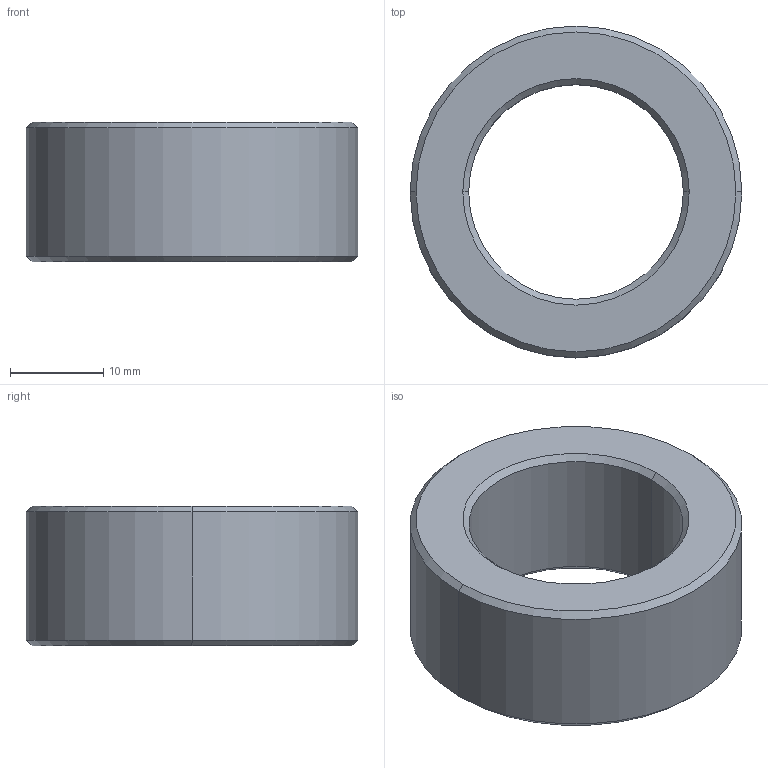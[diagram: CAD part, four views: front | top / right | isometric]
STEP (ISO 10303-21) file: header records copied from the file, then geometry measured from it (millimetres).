
FILE_DESCRIPTION (( 'STEP AP214' ), '1' );
FILE_NAME ('2675805302.STEP', '2025-02-18T19:11:20', ( '' ), ( '' ), 'SwSTEP 2.0', 'SolidWorks 2025', '' );
FILE_SCHEMA (( 'AUTOMOTIVE_DESIGN' ));
Length unit declared in the file: millimetre
Products named in the file (1): 2675805302
Bounding box: 35.55 x 35.55 x 15 mm (x, y, z)
Volume: 8582.5 mm3; surface area: 3776.5 mm2
Topology: 1 solids, 1 shells, 14 faces, 28 edges, 16 vertices
Faces by surface type: cone 8, cylinder 4, plane 2
Entity records: 391 total; most frequent: DIRECTION 74, CARTESIAN_POINT 59, ORIENTED_EDGE 56, AXIS2_PLACEMENT_3D 31, EDGE_CURVE 28, VERTEX_POINT 16, CIRCLE 16, EDGE_LOOP 16
